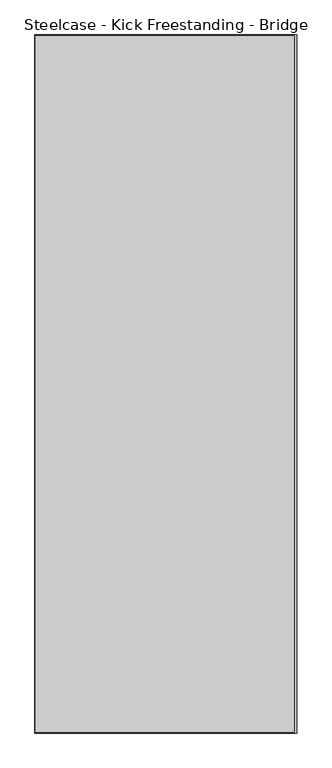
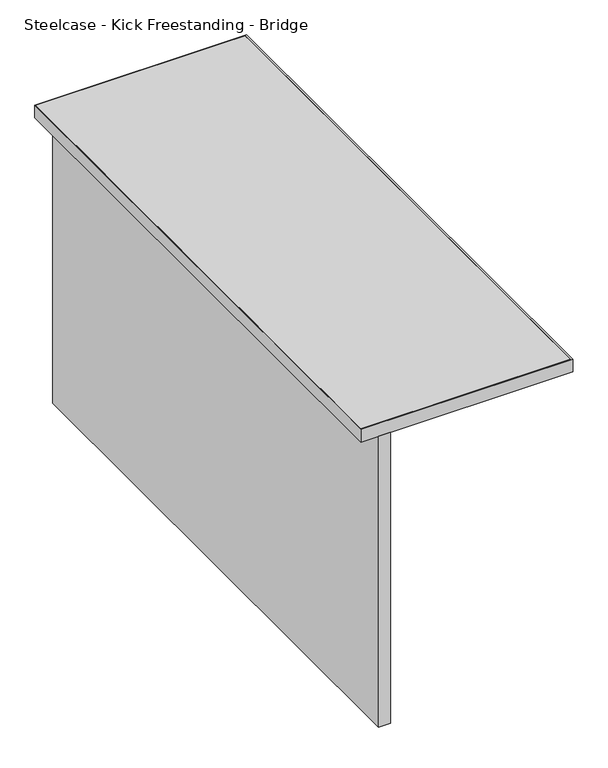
"""IFC4 building model written with IfcOpenShell, lengths in millimetres: furniture geometry, Steelcase - Kick Freestanding - Bridge : 18D x 48W - Full Panel."""

from ifc_helpers import new_model, si_unit, frame, origin, place, context, project, spatial, polyline, outline, extrude, source, transform, mapped, element, save


def steelcase_kick_freestanding_bridge_6c95a8e4(model_context):
    return source(origin(), model_context, "Body", "SweptSolid", [
        extrude(outline(polyline([(2201.9594425, -1766.0145152), (2201.9594425, -546.8145152), (2227.3594425, -546.8145152), (2227.3594425, -1766.0145152), (2201.9594425, -1766.0145152)])), frame((0.0, 0.0, 18.542), z_axis=(0.0, 0.0, 1.0), x_axis=(1.0, 0.0, 0.0)), (0.0, 0.0, 1.0), 663.702),
        extrude(outline(polyline([(2616.8176592, -548.0845152), (2616.8176592, -1764.7445152), (2164.8500425, -1764.7445152), (2164.8500425, -548.0845152), (2616.8176592, -548.0845152)])), frame((0.0, 0.0, 682.244), z_axis=(0.0, 0.0, 1.0), x_axis=(1.0, 0.0, 0.0)), (0.0, 0.0, 1.0), 28.956),
        extrude(outline(polyline([(2621.0594425, -546.8145152), (2621.0594425, -1766.0145152), (2163.8594425, -1766.0145152), (2163.8594425, -546.8145152), (2621.0594425, -546.8145152)]), holes=[polyline([(2616.8176592, -548.0845152), (2164.8500425, -548.0845152), (2164.8500425, -1764.7445152), (2616.8176592, -1764.7445152), (2616.8176592, -548.0845152)])]), frame((0.0, 0.0, 682.244), z_axis=(0.0, 0.0, 1.0), x_axis=(1.0, 0.0, 0.0)), (0.0, 0.0, 1.0), 28.956),
    ])


if __name__ == "__main__":
    model = new_model("IFC4")
    model_context = context("Model", 3, world=origin())
    ifc_project = project(units=[si_unit("LENGTHUNIT", "METRE", prefix="MILLI")], contexts=[model_context])
    site = spatial("IfcSite", under=ifc_project)
    building = spatial("IfcBuilding", under=site)
    placement = place(None, origin())
    steelcase_kick_freestanding_bridge_shape = steelcase_kick_freestanding_bridge_6c95a8e4(model_context)
    element("IfcFurniture", 1, ObjectType="Steelcase - Kick Freestanding - Bridge : 18D x 48W - Full Panel", at=placement, inside=building, context=model_context, shape_type="MappedRepresentation", body=[
        mapped(steelcase_kick_freestanding_bridge_shape, transform((0.0, 0.0, 0.0), x_axis=(1.0, 0.0, 0.0), y_axis=(0.0, 1.0, 0.0), z_axis=(0.0, 0.0, 1.0))),
    ])
    save(model, "model.ifc")
